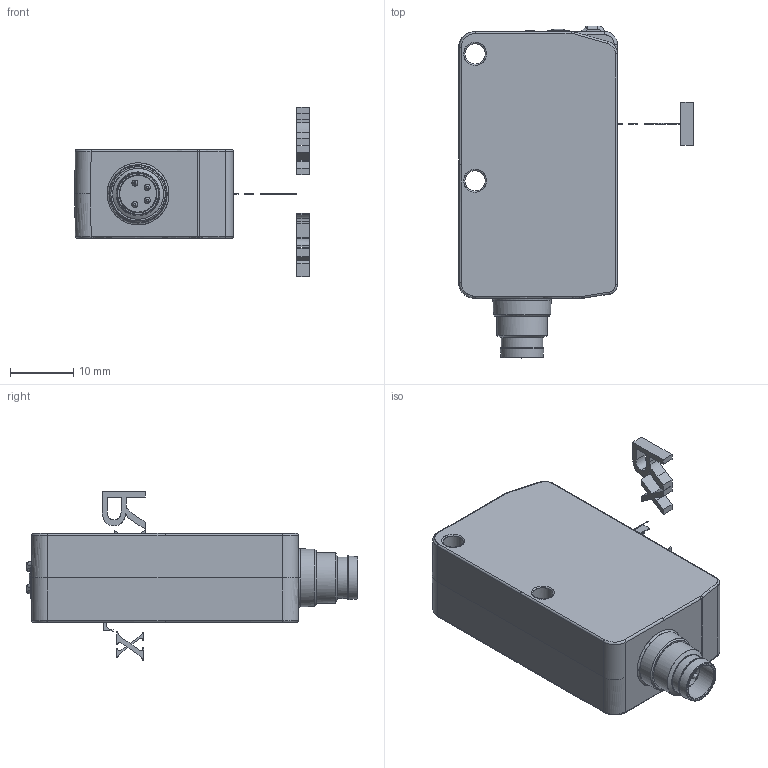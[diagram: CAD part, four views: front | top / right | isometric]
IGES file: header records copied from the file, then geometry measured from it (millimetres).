
Global section: file name: D:\igs\DSD-0144.igs; preprocessor: I-DEAS 3D IGES Translator 11; date: 20070424.145058; units: millimetre
Bounding box: 37 x 52.3 x 26.68 mm (x, y, z)
Volume: 83.7 mm3; surface area: 5534.8 mm2
Topology: 6 solids, 6 shells, 508 faces, 2524 edges, 2339 vertices
Faces by surface type: bspline 508
